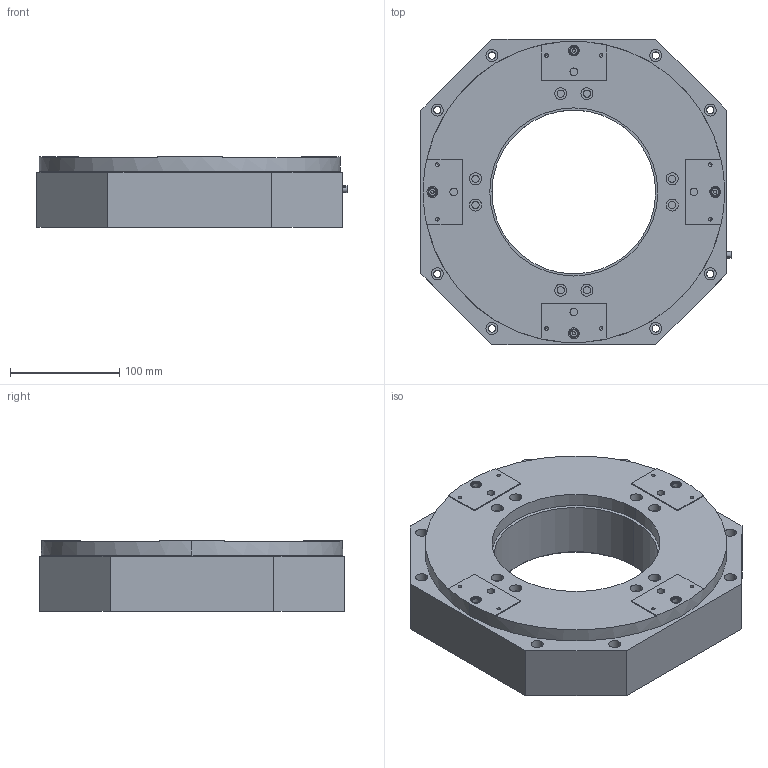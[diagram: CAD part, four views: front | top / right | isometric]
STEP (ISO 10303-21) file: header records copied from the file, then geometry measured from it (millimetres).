
FILE_DESCRIPTION (( 'STEP AP203' ), '1' );
FILE_NAME ('S55.T0S150-B1.STEP', '2024-07-01T06:45:28', ( '' ), ( '' ), 'SwSTEP 2.0', 'SolidWorks 2016', '' );
FILE_SCHEMA (( 'CONFIG_CONTROL_DESIGN' ));
Length unit declared in the file: millimetre
Products named in the file (1): S55.T0S150-B1
Bounding box: 284 x 280 x 65 mm (x, y, z)
Volume: 3159541.6 mm3; surface area: 227723.1 mm2
Topology: 2 solids, 2 shells, 253 faces, 570 edges, 366 vertices
Faces by surface type: cylinder 147, plane 88, cone 18
Entity records: 7235 total; most frequent: DIRECTION 1360, CARTESIAN_POINT 1230, ORIENTED_EDGE 1108, EDGE_CURVE 554, AXIS2_PLACEMENT_3D 554, VERTEX_POINT 366, EDGE_LOOP 334, CIRCLE 300
